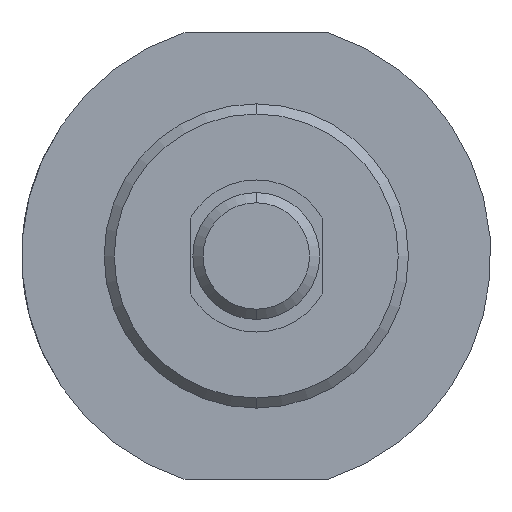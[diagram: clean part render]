
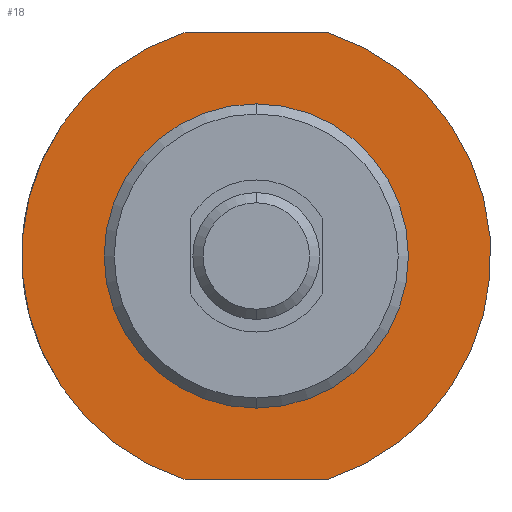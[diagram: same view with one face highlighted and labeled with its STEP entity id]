
A CAD part, left-side view. The second image highlights one B-rep face of the part: STEP entity #18.
In plain terms, the highlighted planar face has unit normal (-1, 0, 0).
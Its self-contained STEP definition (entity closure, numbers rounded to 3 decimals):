
#5 = CARTESIAN_POINT ( 'NONE',  ( 28., 2.85, -8.8 ) ) ;
#17 = FACE_OUTER_BOUND ( 'NONE', #282, .T. ) ;
#18 = ADVANCED_FACE ( 'NONE', ( #460, #17 ), #437, .F. ) ;
#39 = EDGE_CURVE ( 'NONE', #523, #994, #1469, .T. ) ;
#120 = DIRECTION ( 'NONE',  ( 0., -1., 0. ) ) ;
#123 = CIRCLE ( 'NONE', #1432, 9.25 ) ;
#149 = EDGE_CURVE ( 'NONE', #695, #1120, #209, .T. ) ;
#187 = DIRECTION ( 'NONE',  ( 1., 0., 0. ) ) ;
#189 = CARTESIAN_POINT ( 'NONE',  ( 28., 2.85, 8.8 ) ) ;
#209 = CIRCLE ( 'NONE', #1549, 9.25 ) ;
#282 = EDGE_LOOP ( 'NONE', ( #1501, #909, #1350, #756 ) ) ;
#300 = CIRCLE ( 'NONE', #355, 6. ) ;
#308 = AXIS2_PLACEMENT_3D ( 'NONE', #1336, #187, #563 ) ;
#315 = CARTESIAN_POINT ( 'NONE',  ( 28., -2.85, 8.8 ) ) ;
#333 = CARTESIAN_POINT ( 'NONE',  ( 28., 0., 0. ) ) ;
#342 = VERTEX_POINT ( 'NONE', #5 ) ;
#349 = CARTESIAN_POINT ( 'NONE',  ( 28., 0., 0. ) ) ;
#355 = AXIS2_PLACEMENT_3D ( 'NONE', #349, #1076, #1173 ) ;
#375 = CARTESIAN_POINT ( 'NONE',  ( 28., 2.85, 8.8 ) ) ;
#378 = EDGE_CURVE ( 'NONE', #551, #1120, #1079, .T. ) ;
#390 = CARTESIAN_POINT ( 'NONE',  ( 28., -2.85, -8.8 ) ) ;
#437 = PLANE ( 'NONE',  #308 ) ;
#460 = FACE_BOUND ( 'NONE', #1101, .T. ) ;
#485 = CARTESIAN_POINT ( 'NONE',  ( 28., 0., 0. ) ) ;
#523 = VERTEX_POINT ( 'NONE', #1421 ) ;
#551 = VERTEX_POINT ( 'NONE', #375 ) ;
#560 = VECTOR ( 'NONE', #1487, 1000. ) ;
#563 = DIRECTION ( 'NONE',  ( 0., 0., -1. ) ) ;
#630 = DIRECTION ( 'NONE',  ( 0., 0., 1. ) ) ;
#638 = DIRECTION ( 'NONE',  ( -1., 0., 0. ) ) ;
#695 = VERTEX_POINT ( 'NONE', #390 ) ;
#756 = ORIENTED_EDGE ( 'NONE', *, *, #856, .F. ) ;
#778 = ORIENTED_EDGE ( 'NONE', *, *, #1147, .F. ) ;
#856 = EDGE_CURVE ( 'NONE', #695, #342, #976, .T. ) ;
#909 = ORIENTED_EDGE ( 'NONE', *, *, #378, .F. ) ;
#942 = DIRECTION ( 'NONE',  ( -1., 0., 0. ) ) ;
#976 = LINE ( 'NONE', #1282, #560 ) ;
#994 = VERTEX_POINT ( 'NONE', #1180 ) ;
#1076 = DIRECTION ( 'NONE',  ( -1., 0., 0. ) ) ;
#1079 = LINE ( 'NONE', #189, #1262 ) ;
#1101 = EDGE_LOOP ( 'NONE', ( #1272, #778 ) ) ;
#1120 = VERTEX_POINT ( 'NONE', #315 ) ;
#1147 = EDGE_CURVE ( 'NONE', #994, #523, #300, .T. ) ;
#1173 = DIRECTION ( 'NONE',  ( 0., 0., 1. ) ) ;
#1180 = CARTESIAN_POINT ( 'NONE',  ( 28., 0., -6. ) ) ;
#1206 = DIRECTION ( 'NONE',  ( 0., 0., 1. ) ) ;
#1228 = AXIS2_PLACEMENT_3D ( 'NONE', #1230, #942, #630 ) ;
#1230 = CARTESIAN_POINT ( 'NONE',  ( 28., 0., 0. ) ) ;
#1237 = DIRECTION ( 'NONE',  ( -1., 0., 0. ) ) ;
#1262 = VECTOR ( 'NONE', #120, 1000. ) ;
#1272 = ORIENTED_EDGE ( 'NONE', *, *, #39, .F. ) ;
#1282 = CARTESIAN_POINT ( 'NONE',  ( 28., 2.85, -8.8 ) ) ;
#1336 = CARTESIAN_POINT ( 'NONE',  ( 28., 6., 0. ) ) ;
#1350 = ORIENTED_EDGE ( 'NONE', *, *, #1382, .T. ) ;
#1365 = DIRECTION ( 'NONE',  ( 0., 0., 1. ) ) ;
#1382 = EDGE_CURVE ( 'NONE', #551, #342, #123, .T. ) ;
#1421 = CARTESIAN_POINT ( 'NONE',  ( 28., 0., 6. ) ) ;
#1432 = AXIS2_PLACEMENT_3D ( 'NONE', #333, #1237, #1365 ) ;
#1469 = CIRCLE ( 'NONE', #1228, 6. ) ;
#1487 = DIRECTION ( 'NONE',  ( 0., 1., 0. ) ) ;
#1501 = ORIENTED_EDGE ( 'NONE', *, *, #149, .T. ) ;
#1549 = AXIS2_PLACEMENT_3D ( 'NONE', #485, #638, #1206 ) ;
